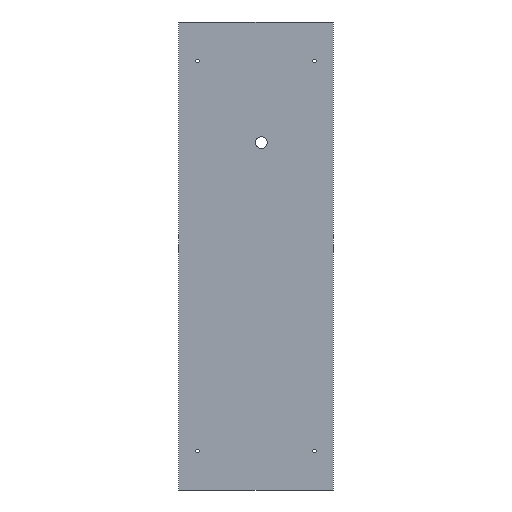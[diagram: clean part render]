
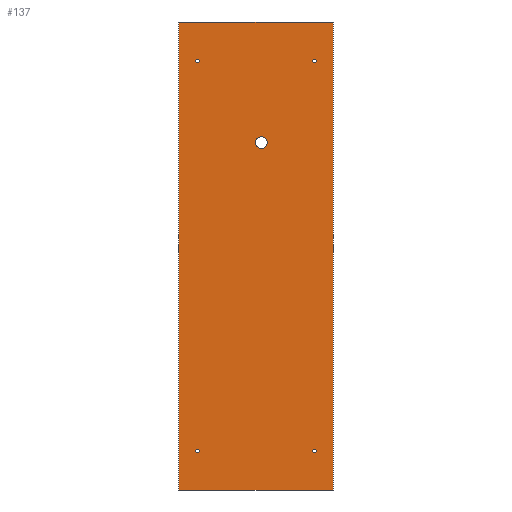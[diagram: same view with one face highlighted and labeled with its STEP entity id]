
A CAD part, front view. The second image highlights one B-rep face of the part: STEP entity #137.
In plain terms, the highlighted planar face has unit normal (0, -1, 0).
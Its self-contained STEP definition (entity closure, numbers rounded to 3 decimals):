
#21 = EDGE_CURVE('',#22,#24,#26,.T.);
#22 = VERTEX_POINT('',#23);
#23 = CARTESIAN_POINT('',(-99.,-52.,12.));
#24 = VERTEX_POINT('',#25);
#25 = CARTESIAN_POINT('',(-99.,-52.,612.));
#26 = SURFACE_CURVE('',#27,(#31,#43),.PCURVE_S1.);
#27 = LINE('',#28,#29);
#28 = CARTESIAN_POINT('',(-99.,-52.,12.));
#29 = VECTOR('',#30,1.);
#30 = DIRECTION('',(0.,0.,1.));
#31 = PCURVE('',#32,#37);
#32 = PLANE('',#33);
#33 = AXIS2_PLACEMENT_3D('',#34,#35,#36);
#34 = CARTESIAN_POINT('',(-99.,-52.,12.));
#35 = DIRECTION('',(1.,0.,0.));
#36 = DIRECTION('',(0.,0.,1.));
#37 = DEFINITIONAL_REPRESENTATION('',(#38),#42);
#38 = LINE('',#39,#40);
#39 = CARTESIAN_POINT('',(0.,0.));
#40 = VECTOR('',#41,1.);
#41 = DIRECTION('',(1.,0.));
#42 = ( GEOMETRIC_REPRESENTATION_CONTEXT(2) 
PARAMETRIC_REPRESENTATION_CONTEXT() REPRESENTATION_CONTEXT('2D SPACE',''
  ) );
#43 = PCURVE('',#44,#49);
#44 = PLANE('',#45);
#45 = AXIS2_PLACEMENT_3D('',#46,#47,#48);
#46 = CARTESIAN_POINT('',(-99.,-52.,12.));
#47 = DIRECTION('',(0.,1.,0.));
#48 = DIRECTION('',(0.,0.,1.));
#49 = DEFINITIONAL_REPRESENTATION('',(#50),#54);
#50 = LINE('',#51,#52);
#51 = CARTESIAN_POINT('',(0.,0.));
#52 = VECTOR('',#53,1.);
#53 = DIRECTION('',(1.,0.));
#54 = ( GEOMETRIC_REPRESENTATION_CONTEXT(2) 
PARAMETRIC_REPRESENTATION_CONTEXT() REPRESENTATION_CONTEXT('2D SPACE',''
  ) );
#72 = PLANE('',#73);
#73 = AXIS2_PLACEMENT_3D('',#74,#75,#76);
#74 = CARTESIAN_POINT('',(-99.,-52.,12.));
#75 = DIRECTION('',(0.,0.,1.));
#76 = DIRECTION('',(1.,0.,0.));
#126 = PLANE('',#127);
#127 = AXIS2_PLACEMENT_3D('',#128,#129,#130);
#128 = CARTESIAN_POINT('',(-99.,-52.,612.));
#129 = DIRECTION('',(0.,0.,1.));
#130 = DIRECTION('',(1.,0.,0.));
#137 = ADVANCED_FACE('',(#138,#213,#244,#275,#306,#337),#44,.F.);
#138 = FACE_BOUND('',#139,.F.);
#139 = EDGE_LOOP('',(#140,#163,#164,#187));
#140 = ORIENTED_EDGE('',*,*,#141,.F.);
#141 = EDGE_CURVE('',#22,#142,#144,.T.);
#142 = VERTEX_POINT('',#143);
#143 = CARTESIAN_POINT('',(99.,-52.,12.));
#144 = SURFACE_CURVE('',#145,(#149,#156),.PCURVE_S1.);
#145 = LINE('',#146,#147);
#146 = CARTESIAN_POINT('',(-99.,-52.,12.));
#147 = VECTOR('',#148,1.);
#148 = DIRECTION('',(1.,0.,0.));
#149 = PCURVE('',#44,#150);
#150 = DEFINITIONAL_REPRESENTATION('',(#151),#155);
#151 = LINE('',#152,#153);
#152 = CARTESIAN_POINT('',(0.,0.));
#153 = VECTOR('',#154,1.);
#154 = DIRECTION('',(0.,1.));
#155 = ( GEOMETRIC_REPRESENTATION_CONTEXT(2) 
PARAMETRIC_REPRESENTATION_CONTEXT() REPRESENTATION_CONTEXT('2D SPACE',''
  ) );
#156 = PCURVE('',#72,#157);
#157 = DEFINITIONAL_REPRESENTATION('',(#158),#162);
#158 = LINE('',#159,#160);
#159 = CARTESIAN_POINT('',(0.,0.));
#160 = VECTOR('',#161,1.);
#161 = DIRECTION('',(1.,0.));
#162 = ( GEOMETRIC_REPRESENTATION_CONTEXT(2) 
PARAMETRIC_REPRESENTATION_CONTEXT() REPRESENTATION_CONTEXT('2D SPACE',''
  ) );
#163 = ORIENTED_EDGE('',*,*,#21,.T.);
#164 = ORIENTED_EDGE('',*,*,#165,.T.);
#165 = EDGE_CURVE('',#24,#166,#168,.T.);
#166 = VERTEX_POINT('',#167);
#167 = CARTESIAN_POINT('',(99.,-52.,612.));
#168 = SURFACE_CURVE('',#169,(#173,#180),.PCURVE_S1.);
#169 = LINE('',#170,#171);
#170 = CARTESIAN_POINT('',(-99.,-52.,612.));
#171 = VECTOR('',#172,1.);
#172 = DIRECTION('',(1.,0.,0.));
#173 = PCURVE('',#44,#174);
#174 = DEFINITIONAL_REPRESENTATION('',(#175),#179);
#175 = LINE('',#176,#177);
#176 = CARTESIAN_POINT('',(600.,0.));
#177 = VECTOR('',#178,1.);
#178 = DIRECTION('',(0.,1.));
#179 = ( GEOMETRIC_REPRESENTATION_CONTEXT(2) 
PARAMETRIC_REPRESENTATION_CONTEXT() REPRESENTATION_CONTEXT('2D SPACE',''
  ) );
#180 = PCURVE('',#126,#181);
#181 = DEFINITIONAL_REPRESENTATION('',(#182),#186);
#182 = LINE('',#183,#184);
#183 = CARTESIAN_POINT('',(0.,0.));
#184 = VECTOR('',#185,1.);
#185 = DIRECTION('',(1.,0.));
#186 = ( GEOMETRIC_REPRESENTATION_CONTEXT(2) 
PARAMETRIC_REPRESENTATION_CONTEXT() REPRESENTATION_CONTEXT('2D SPACE',''
  ) );
#187 = ORIENTED_EDGE('',*,*,#188,.F.);
#188 = EDGE_CURVE('',#142,#166,#189,.T.);
#189 = SURFACE_CURVE('',#190,(#194,#201),.PCURVE_S1.);
#190 = LINE('',#191,#192);
#191 = CARTESIAN_POINT('',(99.,-52.,12.));
#192 = VECTOR('',#193,1.);
#193 = DIRECTION('',(0.,0.,1.));
#194 = PCURVE('',#44,#195);
#195 = DEFINITIONAL_REPRESENTATION('',(#196),#200);
#196 = LINE('',#197,#198);
#197 = CARTESIAN_POINT('',(0.,198.));
#198 = VECTOR('',#199,1.);
#199 = DIRECTION('',(1.,0.));
#200 = ( GEOMETRIC_REPRESENTATION_CONTEXT(2) 
PARAMETRIC_REPRESENTATION_CONTEXT() REPRESENTATION_CONTEXT('2D SPACE',''
  ) );
#201 = PCURVE('',#202,#207);
#202 = PLANE('',#203);
#203 = AXIS2_PLACEMENT_3D('',#204,#205,#206);
#204 = CARTESIAN_POINT('',(99.,-52.,12.));
#205 = DIRECTION('',(1.,0.,0.));
#206 = DIRECTION('',(0.,0.,1.));
#207 = DEFINITIONAL_REPRESENTATION('',(#208),#212);
#208 = LINE('',#209,#210);
#209 = CARTESIAN_POINT('',(0.,0.));
#210 = VECTOR('',#211,1.);
#211 = DIRECTION('',(1.,0.));
#212 = ( GEOMETRIC_REPRESENTATION_CONTEXT(2) 
PARAMETRIC_REPRESENTATION_CONTEXT() REPRESENTATION_CONTEXT('2D SPACE',''
  ) );
#213 = FACE_BOUND('',#214,.F.);
#214 = EDGE_LOOP('',(#215));
#215 = ORIENTED_EDGE('',*,*,#216,.F.);
#216 = EDGE_CURVE('',#217,#217,#219,.T.);
#217 = VERTEX_POINT('',#218);
#218 = CARTESIAN_POINT('',(-75.,-52.,64.25));
#219 = SURFACE_CURVE('',#220,(#225,#232),.PCURVE_S1.);
#220 = CIRCLE('',#221,2.25);
#221 = AXIS2_PLACEMENT_3D('',#222,#223,#224);
#222 = CARTESIAN_POINT('',(-75.,-52.,62.));
#223 = DIRECTION('',(0.,1.,0.));
#224 = DIRECTION('',(0.,-0.,1.));
#225 = PCURVE('',#44,#226);
#226 = DEFINITIONAL_REPRESENTATION('',(#227),#231);
#227 = CIRCLE('',#228,2.25);
#228 = AXIS2_PLACEMENT_2D('',#229,#230);
#229 = CARTESIAN_POINT('',(50.,24.));
#230 = DIRECTION('',(1.,0.));
#231 = ( GEOMETRIC_REPRESENTATION_CONTEXT(2) 
PARAMETRIC_REPRESENTATION_CONTEXT() REPRESENTATION_CONTEXT('2D SPACE',''
  ) );
#232 = PCURVE('',#233,#238);
#233 = CYLINDRICAL_SURFACE('',#234,2.25);
#234 = AXIS2_PLACEMENT_3D('',#235,#236,#237);
#235 = CARTESIAN_POINT('',(-75.,-52.,62.));
#236 = DIRECTION('',(0.,1.,0.));
#237 = DIRECTION('',(0.,-0.,1.));
#238 = DEFINITIONAL_REPRESENTATION('',(#239),#243);
#239 = LINE('',#240,#241);
#240 = CARTESIAN_POINT('',(0.,0.));
#241 = VECTOR('',#242,1.);
#242 = DIRECTION('',(1.,0.));
#243 = ( GEOMETRIC_REPRESENTATION_CONTEXT(2) 
PARAMETRIC_REPRESENTATION_CONTEXT() REPRESENTATION_CONTEXT('2D SPACE',''
  ) );
#244 = FACE_BOUND('',#245,.F.);
#245 = EDGE_LOOP('',(#246));
#246 = ORIENTED_EDGE('',*,*,#247,.F.);
#247 = EDGE_CURVE('',#248,#248,#250,.T.);
#248 = VERTEX_POINT('',#249);
#249 = CARTESIAN_POINT('',(-75.,-52.,564.25));
#250 = SURFACE_CURVE('',#251,(#256,#263),.PCURVE_S1.);
#251 = CIRCLE('',#252,2.25);
#252 = AXIS2_PLACEMENT_3D('',#253,#254,#255);
#253 = CARTESIAN_POINT('',(-75.,-52.,562.));
#254 = DIRECTION('',(0.,1.,0.));
#255 = DIRECTION('',(0.,-0.,1.));
#256 = PCURVE('',#44,#257);
#257 = DEFINITIONAL_REPRESENTATION('',(#258),#262);
#258 = CIRCLE('',#259,2.25);
#259 = AXIS2_PLACEMENT_2D('',#260,#261);
#260 = CARTESIAN_POINT('',(550.,24.));
#261 = DIRECTION('',(1.,0.));
#262 = ( GEOMETRIC_REPRESENTATION_CONTEXT(2) 
PARAMETRIC_REPRESENTATION_CONTEXT() REPRESENTATION_CONTEXT('2D SPACE',''
  ) );
#263 = PCURVE('',#264,#269);
#264 = CYLINDRICAL_SURFACE('',#265,2.25);
#265 = AXIS2_PLACEMENT_3D('',#266,#267,#268);
#266 = CARTESIAN_POINT('',(-75.,-52.,562.));
#267 = DIRECTION('',(0.,1.,0.));
#268 = DIRECTION('',(0.,-0.,1.));
#269 = DEFINITIONAL_REPRESENTATION('',(#270),#274);
#270 = LINE('',#271,#272);
#271 = CARTESIAN_POINT('',(0.,0.));
#272 = VECTOR('',#273,1.);
#273 = DIRECTION('',(1.,0.));
#274 = ( GEOMETRIC_REPRESENTATION_CONTEXT(2) 
PARAMETRIC_REPRESENTATION_CONTEXT() REPRESENTATION_CONTEXT('2D SPACE',''
  ) );
#275 = FACE_BOUND('',#276,.F.);
#276 = EDGE_LOOP('',(#277));
#277 = ORIENTED_EDGE('',*,*,#278,.F.);
#278 = EDGE_CURVE('',#279,#279,#281,.T.);
#279 = VERTEX_POINT('',#280);
#280 = CARTESIAN_POINT('',(75.,-52.,64.25));
#281 = SURFACE_CURVE('',#282,(#287,#294),.PCURVE_S1.);
#282 = CIRCLE('',#283,2.25);
#283 = AXIS2_PLACEMENT_3D('',#284,#285,#286);
#284 = CARTESIAN_POINT('',(75.,-52.,62.));
#285 = DIRECTION('',(0.,1.,0.));
#286 = DIRECTION('',(0.,-0.,1.));
#287 = PCURVE('',#44,#288);
#288 = DEFINITIONAL_REPRESENTATION('',(#289),#293);
#289 = CIRCLE('',#290,2.25);
#290 = AXIS2_PLACEMENT_2D('',#291,#292);
#291 = CARTESIAN_POINT('',(50.,174.));
#292 = DIRECTION('',(1.,0.));
#293 = ( GEOMETRIC_REPRESENTATION_CONTEXT(2) 
PARAMETRIC_REPRESENTATION_CONTEXT() REPRESENTATION_CONTEXT('2D SPACE',''
  ) );
#294 = PCURVE('',#295,#300);
#295 = CYLINDRICAL_SURFACE('',#296,2.25);
#296 = AXIS2_PLACEMENT_3D('',#297,#298,#299);
#297 = CARTESIAN_POINT('',(75.,-52.,62.));
#298 = DIRECTION('',(0.,1.,0.));
#299 = DIRECTION('',(0.,-0.,1.));
#300 = DEFINITIONAL_REPRESENTATION('',(#301),#305);
#301 = LINE('',#302,#303);
#302 = CARTESIAN_POINT('',(0.,0.));
#303 = VECTOR('',#304,1.);
#304 = DIRECTION('',(1.,0.));
#305 = ( GEOMETRIC_REPRESENTATION_CONTEXT(2) 
PARAMETRIC_REPRESENTATION_CONTEXT() REPRESENTATION_CONTEXT('2D SPACE',''
  ) );
#306 = FACE_BOUND('',#307,.F.);
#307 = EDGE_LOOP('',(#308));
#308 = ORIENTED_EDGE('',*,*,#309,.F.);
#309 = EDGE_CURVE('',#310,#310,#312,.T.);
#310 = VERTEX_POINT('',#311);
#311 = CARTESIAN_POINT('',(7.,-52.,465.));
#312 = SURFACE_CURVE('',#313,(#318,#325),.PCURVE_S1.);
#313 = CIRCLE('',#314,7.5);
#314 = AXIS2_PLACEMENT_3D('',#315,#316,#317);
#315 = CARTESIAN_POINT('',(7.,-52.,457.5));
#316 = DIRECTION('',(0.,1.,0.));
#317 = DIRECTION('',(0.,-0.,1.));
#318 = PCURVE('',#44,#319);
#319 = DEFINITIONAL_REPRESENTATION('',(#320),#324);
#320 = CIRCLE('',#321,7.5);
#321 = AXIS2_PLACEMENT_2D('',#322,#323);
#322 = CARTESIAN_POINT('',(445.5,106.));
#323 = DIRECTION('',(1.,0.));
#324 = ( GEOMETRIC_REPRESENTATION_CONTEXT(2) 
PARAMETRIC_REPRESENTATION_CONTEXT() REPRESENTATION_CONTEXT('2D SPACE',''
  ) );
#325 = PCURVE('',#326,#331);
#326 = CYLINDRICAL_SURFACE('',#327,7.5);
#327 = AXIS2_PLACEMENT_3D('',#328,#329,#330);
#328 = CARTESIAN_POINT('',(7.,-52.,457.5));
#329 = DIRECTION('',(0.,1.,0.));
#330 = DIRECTION('',(0.,-0.,1.));
#331 = DEFINITIONAL_REPRESENTATION('',(#332),#336);
#332 = LINE('',#333,#334);
#333 = CARTESIAN_POINT('',(0.,0.));
#334 = VECTOR('',#335,1.);
#335 = DIRECTION('',(1.,0.));
#336 = ( GEOMETRIC_REPRESENTATION_CONTEXT(2) 
PARAMETRIC_REPRESENTATION_CONTEXT() REPRESENTATION_CONTEXT('2D SPACE',''
  ) );
#337 = FACE_BOUND('',#338,.F.);
#338 = EDGE_LOOP('',(#339));
#339 = ORIENTED_EDGE('',*,*,#340,.F.);
#340 = EDGE_CURVE('',#341,#341,#343,.T.);
#341 = VERTEX_POINT('',#342);
#342 = CARTESIAN_POINT('',(75.,-52.,564.25));
#343 = SURFACE_CURVE('',#344,(#349,#356),.PCURVE_S1.);
#344 = CIRCLE('',#345,2.25);
#345 = AXIS2_PLACEMENT_3D('',#346,#347,#348);
#346 = CARTESIAN_POINT('',(75.,-52.,562.));
#347 = DIRECTION('',(0.,1.,0.));
#348 = DIRECTION('',(0.,-0.,1.));
#349 = PCURVE('',#44,#350);
#350 = DEFINITIONAL_REPRESENTATION('',(#351),#355);
#351 = CIRCLE('',#352,2.25);
#352 = AXIS2_PLACEMENT_2D('',#353,#354);
#353 = CARTESIAN_POINT('',(550.,174.));
#354 = DIRECTION('',(1.,0.));
#355 = ( GEOMETRIC_REPRESENTATION_CONTEXT(2) 
PARAMETRIC_REPRESENTATION_CONTEXT() REPRESENTATION_CONTEXT('2D SPACE',''
  ) );
#356 = PCURVE('',#357,#362);
#357 = CYLINDRICAL_SURFACE('',#358,2.25);
#358 = AXIS2_PLACEMENT_3D('',#359,#360,#361);
#359 = CARTESIAN_POINT('',(75.,-52.,562.));
#360 = DIRECTION('',(0.,1.,0.));
#361 = DIRECTION('',(0.,-0.,1.));
#362 = DEFINITIONAL_REPRESENTATION('',(#363),#367);
#363 = LINE('',#364,#365);
#364 = CARTESIAN_POINT('',(0.,0.));
#365 = VECTOR('',#366,1.);
#366 = DIRECTION('',(1.,0.));
#367 = ( GEOMETRIC_REPRESENTATION_CONTEXT(2) 
PARAMETRIC_REPRESENTATION_CONTEXT() REPRESENTATION_CONTEXT('2D SPACE',''
  ) );
